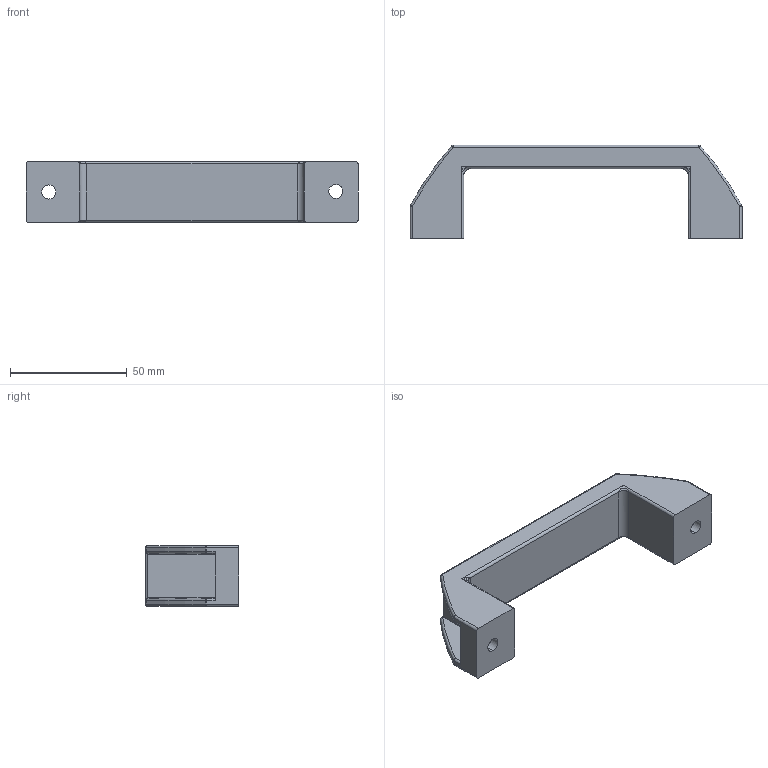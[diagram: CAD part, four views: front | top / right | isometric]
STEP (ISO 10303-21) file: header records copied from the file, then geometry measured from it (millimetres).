
FILE_DESCRIPTION (( 'STEP AP203' ), '1' );
FILE_NAME ('handle medium eco.STEP', '2012-05-29T20:40:23', ( '' ), ( '' ), 'SwSTEP 2.0', 'SolidWorks 2010', '' );
FILE_SCHEMA (( 'CONFIG_CONTROL_DESIGN' ));
Length unit declared in the file: millimetre
Products named in the file (1): handle medium eco
Bounding box: 142 x 40 x 26 mm (x, y, z)
Volume: 46660.9 mm3; surface area: 17022.7 mm2
Topology: 1 solids, 1 shells, 138 faces, 324 edges, 168 vertices
Faces by surface type: cylinder 56, plane 34, sphere 20, bspline 16, torus 12
Entity records: 5085 total; most frequent: CARTESIAN_POINT 2081, DIRECTION 626, ORIENTED_EDGE 600, EDGE_CURVE 300, AXIS2_PLACEMENT_3D 243, VERTEX_POINT 168, EDGE_LOOP 146, LINE 140
